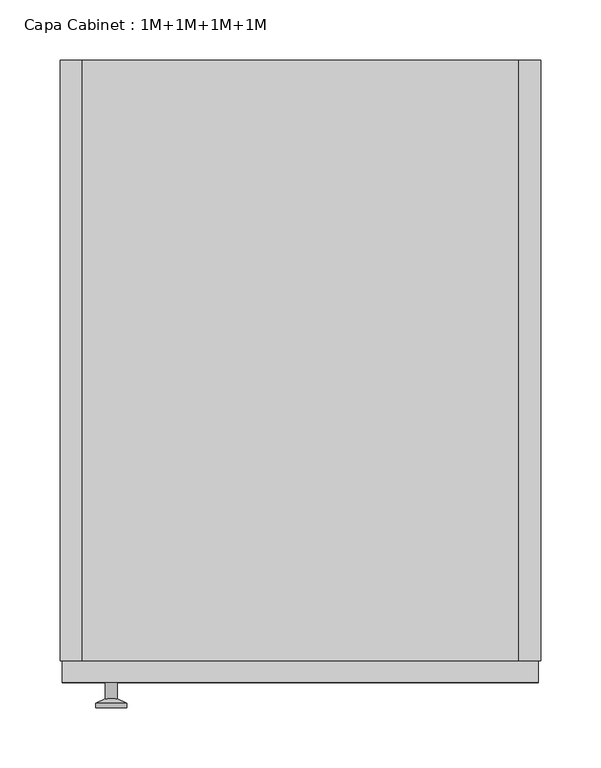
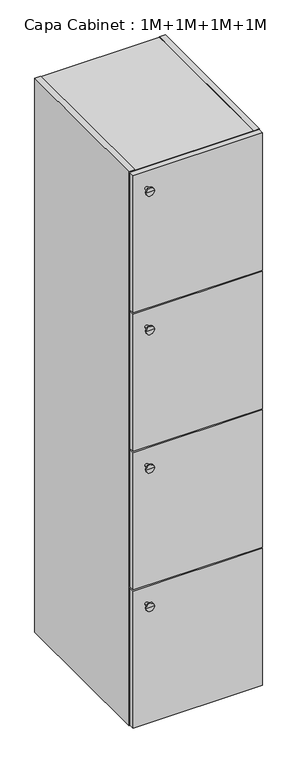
"""IFC4 building model written with IfcOpenShell, lengths in millimetres: furniture geometry, Capa Cabinet : 1M+1M+1M+1M."""

from ifc_helpers import new_model, si_unit, frame, origin, place, context, project, spatial, polyline, circle_curve, outline, extrude, faceted_brep, source, transform, mapped, element, save
from ifc_brep_helpers import plane_surface, cylinder_surface, revolved_surface, advanced_brep


def capa_cabinet_1m_1m_1m_1m_b69cb789(model_context):
    return source(origin(), model_context, "Body", "SolidModel", [
        extrude(outline(polyline([(182.0, 0.0), (-182.0, 0.0), (-182.0, 490.0), (182.0, 490.0), (182.0, 0.0)])), frame((0.0, 0.0, 1337.0), z_axis=(0.0, 0.0, 1.0), x_axis=(1.0, 0.0, 0.0)), (0.0, 0.0, 1.0), 14.0),
        extrude(outline(polyline([(182.0, 0.0), (-182.0, 0.0), (-182.0, 490.0), (182.0, 490.0), (182.0, 0.0)])), frame((0.0, 0.0, 889.0), z_axis=(0.0, 0.0, 1.0), x_axis=(1.0, 0.0, 0.0)), (0.0, 0.0, 1.0), 14.0),
        extrude(outline(polyline([(182.0, 0.0), (-182.0, 0.0), (-182.0, 490.0), (182.0, 490.0), (182.0, 0.0)])), frame((0.0, 0.0, 441.0), z_axis=(0.0, 0.0, 1.0), x_axis=(1.0, 0.0, 0.0)), (0.0, 0.0, 1.0), 14.0),
        faceted_brep([(-182.0, 500.0, 1792.0), (-182.0, 500.0, 1791.0), (182.0, 500.0, 1791.0), (182.0, 500.0, 1792.0), (200.0, 500.0, 1792.0), (200.0, 500.0, 0.0), (182.0, 500.0, 0.0), (182.0, 500.0, 1.0), (-182.0, 500.0, 1.0), (-182.0, 500.0, 0.0), (-200.0, 500.0, 0.0), (-200.0, 500.0, 1792.0), (182.0, 490.0, 19.0), (182.0, 490.0, 1773.0), (-182.0, 490.0, 1773.0), (-182.0, 490.0, 19.0), (-182.0, 0.0, 1792.0), (-200.0, 0.0, 1792.0), (-200.0, 0.0, 0.0), (-182.0, 0.0, 0.0), (-182.0, 0.0, 1.0), (182.0, 0.0, 1.0), (182.0, 0.0, 0.0), (200.0, 0.0, 0.0), (200.0, 0.0, 1792.0), (182.0, 0.0, 1792.0), (182.0, 0.0, 1791.0), (-182.0, 0.0, 1791.0), (182.0, 0.0, 1773.0), (182.0, 0.0, 19.0), (-182.0, 0.0, 19.0), (-182.0, 0.0, 1773.0)], [[[0, 1, 2, 3, 4, 5, 6, 7, 8, 9, 10, 11]], [[12, 13, 14, 15]], [[16, 17, 18, 19, 20, 21, 22, 23, 24, 25, 26, 27], [28, 29, 30, 31]], [[17, 16, 0, 11]], [[18, 17, 11, 10]], [[23, 22, 6, 5]], [[24, 23, 5, 4]], [[19, 18, 10, 9]], [[20, 19, 9, 8]], [[21, 20, 8, 7]], [[22, 21, 7, 6]], [[25, 24, 4, 3]], [[26, 25, 3, 2]], [[27, 26, 2, 1]], [[16, 27, 1, 0]], [[29, 28, 13, 12]], [[30, 29, 12, 15]], [[31, 30, 15, 14]], [[28, 31, 14, 13]]]),
        extrude(outline(polyline([(198.0, -18.0), (-198.0, -18.0), (-198.0, 0.0), (198.0, 0.0), (198.0, -18.0)])), frame((0.0, 0.0, 1346.0), z_axis=(0.0, 0.0, 1.0), x_axis=(1.0, 0.0, 0.0)), (0.0, 0.0, 1.0), 444.0),
        advanced_brep(
        [(-157.2922597, -18.0, 1736.0), (-152.2922597, -18.0, 1736.0), (-162.2922597, -18.0, 1736.0), (-170.2922597, -38.997134, 1736.0), (-144.2922597, -38.997134, 1736.0), (-157.2922597, -38.997134, 1736.0), (-170.2922597, -35.5419417, 1736.0), (-144.2922597, -35.5419417, 1736.0), (-162.2922597, -31.8114804, 1736.0), (-152.2922597, -31.8114804, 1736.0)],
        [
            (0, 1),
            (1, 2, circle_curve(frame((-157.2922597, -18.0, 1736.0), z_axis=(0.0, 1.0, 0.0), x_axis=(1.0, 0.0, 0.0)), 5.0)),
            (2, 0),
            (2, 1, circle_curve(frame((-157.2922597, -18.0, 1736.0), z_axis=(0.0, 1.0, 0.0), x_axis=(1.0, 0.0, 0.0)), 5.0)),
            (3, 4, circle_curve(frame((-157.2922597, -38.997134, 1736.0), z_axis=(0.0, -1.0, 0.0), x_axis=(1.0, 0.0, 0.0)), 13.0)),
            (4, 5),
            (5, 3),
            (4, 3, circle_curve(frame((-157.2922597, -38.997134, 1736.0), z_axis=(0.0, -1.0, 0.0), x_axis=(1.0, 0.0, 0.0)), 13.0)),
            (6, 7, circle_curve(frame((-157.2922597, -35.5419417, 1736.0), z_axis=(0.0, -1.0, 0.0), x_axis=(1.0, 0.0, 0.0)), 13.0)),
            (7, 4),
            (3, 6),
            (7, 6, circle_curve(frame((-157.2922597, -35.5419417, 1736.0), z_axis=(0.0, -1.0, 0.0), x_axis=(1.0, 0.0, 0.0)), 13.0)),
            (8, 9, circle_curve(frame((-157.2922597, -31.8114804, 1736.0), z_axis=(0.0, -1.0, 0.0), x_axis=(1.0, 0.0, 0.0)), 5.0)),
            (9, 7),
            (6, 8),
            (9, 8, circle_curve(frame((-157.2922597, -31.8114804, 1736.0), z_axis=(0.0, -1.0, 0.0), x_axis=(1.0, 0.0, 0.0)), 5.0)),
            (1, 9),
            (8, 2),
        ],
        [
            plane_surface(frame((-157.2922597, -18.0, 1736.0), z_axis=(0.0, 1.0, 0.0), x_axis=(1.0, 0.0, 0.0))),
            plane_surface(frame((-157.2922597, -38.997134, 1736.0), z_axis=(0.0, -1.0, 0.0), x_axis=(1.0, 0.0, 0.0))),
            cylinder_surface(frame((-157.2922597, -38.997134, 1736.0), z_axis=(0.0, 1.0, 0.0), x_axis=(1.0, 0.0, 0.0)), 13.0),
            revolved_surface(polyline([(-144.2922597, -35.5419417, 1736.0), (-152.2922597, -31.8114804, 1736.0)]), (-157.2922597, -38.997134, 1736.0), (0.0, 1.0, 0.0)),
            cylinder_surface(frame((-157.2922597, -38.997134, 1736.0), z_axis=(0.0, 1.0, 0.0), x_axis=(1.0, 0.0, 0.0)), 5.0),
        ],
        [
            (0, [[1, 2, 3]]),
            (0, [[-3, 4, -1]]),
            (1, [[5, 6, 7]]),
            (1, [[8, -7, -6]]),
            (2, [[9, 10, -5, 11]]),
            (2, [[12, -11, -8, -10]]),
            (3, [[13, 14, -9, 15]]),
            (3, [[16, -15, -12, -14]]),
            (4, [[-2, 17, -13, 18]]),
            (4, [[-4, -18, -16, -17]]),
        ],
    ),
        extrude(outline(polyline([(198.0, -18.0), (-198.0, -18.0), (-198.0, 0.0), (198.0, 0.0), (198.0, -18.0)])), frame((0.0, 0.0, 898.0), z_axis=(0.0, 0.0, 1.0), x_axis=(1.0, 0.0, 0.0)), (0.0, 0.0, 1.0), 444.0),
        advanced_brep(
        [(-157.2922597, -18.0, 1288.0), (-152.2922597, -18.0, 1288.0), (-162.2922597, -18.0, 1288.0), (-170.2922597, -38.997134, 1288.0), (-144.2922597, -38.997134, 1288.0), (-157.2922597, -38.997134, 1288.0), (-170.2922597, -35.5419417, 1288.0), (-144.2922597, -35.5419417, 1288.0), (-162.2922597, -31.8114804, 1288.0), (-152.2922597, -31.8114804, 1288.0)],
        [
            (0, 1),
            (1, 2, circle_curve(frame((-157.2922597, -18.0, 1288.0), z_axis=(0.0, 1.0, 0.0), x_axis=(1.0, 0.0, 0.0)), 5.0)),
            (2, 0),
            (2, 1, circle_curve(frame((-157.2922597, -18.0, 1288.0), z_axis=(0.0, 1.0, 0.0), x_axis=(1.0, 0.0, 0.0)), 5.0)),
            (3, 4, circle_curve(frame((-157.2922597, -38.997134, 1288.0), z_axis=(0.0, -1.0, 0.0), x_axis=(1.0, 0.0, 0.0)), 13.0)),
            (4, 5),
            (5, 3),
            (4, 3, circle_curve(frame((-157.2922597, -38.997134, 1288.0), z_axis=(0.0, -1.0, 0.0), x_axis=(1.0, 0.0, 0.0)), 13.0)),
            (6, 7, circle_curve(frame((-157.2922597, -35.5419417, 1288.0), z_axis=(0.0, -1.0, 0.0), x_axis=(1.0, 0.0, 0.0)), 13.0)),
            (7, 4),
            (3, 6),
            (7, 6, circle_curve(frame((-157.2922597, -35.5419417, 1288.0), z_axis=(0.0, -1.0, 0.0), x_axis=(1.0, 0.0, 0.0)), 13.0)),
            (8, 9, circle_curve(frame((-157.2922597, -31.8114804, 1288.0), z_axis=(0.0, -1.0, 0.0), x_axis=(1.0, 0.0, 0.0)), 5.0)),
            (9, 7),
            (6, 8),
            (9, 8, circle_curve(frame((-157.2922597, -31.8114804, 1288.0), z_axis=(0.0, -1.0, 0.0), x_axis=(1.0, 0.0, 0.0)), 5.0)),
            (1, 9),
            (8, 2),
        ],
        [
            plane_surface(frame((-157.2922597, -18.0, 1288.0), z_axis=(0.0, 1.0, 0.0), x_axis=(1.0, 0.0, 0.0))),
            plane_surface(frame((-157.2922597, -38.997134, 1288.0), z_axis=(0.0, -1.0, 0.0), x_axis=(1.0, 0.0, 0.0))),
            cylinder_surface(frame((-157.2922597, -38.997134, 1288.0), z_axis=(0.0, 1.0, 0.0), x_axis=(1.0, 0.0, 0.0)), 13.0),
            revolved_surface(polyline([(-144.2922597, -35.5419417, 1288.0), (-152.2922597, -31.8114804, 1288.0)]), (-157.2922597, -38.997134, 1288.0), (0.0, 1.0, 0.0)),
            cylinder_surface(frame((-157.2922597, -38.997134, 1288.0), z_axis=(0.0, 1.0, 0.0), x_axis=(1.0, 0.0, 0.0)), 5.0),
        ],
        [
            (0, [[1, 2, 3]]),
            (0, [[-3, 4, -1]]),
            (1, [[5, 6, 7]]),
            (1, [[8, -7, -6]]),
            (2, [[9, 10, -5, 11]]),
            (2, [[12, -11, -8, -10]]),
            (3, [[13, 14, -9, 15]]),
            (3, [[16, -15, -12, -14]]),
            (4, [[-2, 17, -13, 18]]),
            (4, [[-4, -18, -16, -17]]),
        ],
    ),
        extrude(outline(polyline([(198.0, -18.0), (-198.0, -18.0), (-198.0, 0.0), (198.0, 0.0), (198.0, -18.0)])), frame((0.0, 0.0, 450.0), z_axis=(0.0, 0.0, 1.0), x_axis=(1.0, 0.0, 0.0)), (0.0, 0.0, 1.0), 444.0),
        advanced_brep(
        [(-157.2922597, -18.0, 840.0), (-152.2922597, -18.0, 840.0), (-162.2922597, -18.0, 840.0), (-170.2922597, -38.997134, 840.0), (-144.2922597, -38.997134, 840.0), (-157.2922597, -38.997134, 840.0), (-170.2922597, -35.5419417, 840.0), (-144.2922597, -35.5419417, 840.0), (-162.2922597, -31.8114804, 840.0), (-152.2922597, -31.8114804, 840.0)],
        [
            (0, 1),
            (1, 2, circle_curve(frame((-157.2922597, -18.0, 840.0), z_axis=(0.0, 1.0, 0.0), x_axis=(1.0, 0.0, 0.0)), 5.0)),
            (2, 0),
            (2, 1, circle_curve(frame((-157.2922597, -18.0, 840.0), z_axis=(0.0, 1.0, 0.0), x_axis=(1.0, 0.0, 0.0)), 5.0)),
            (3, 4, circle_curve(frame((-157.2922597, -38.997134, 840.0), z_axis=(0.0, -1.0, 0.0), x_axis=(1.0, 0.0, 0.0)), 13.0)),
            (4, 5),
            (5, 3),
            (4, 3, circle_curve(frame((-157.2922597, -38.997134, 840.0), z_axis=(0.0, -1.0, 0.0), x_axis=(1.0, 0.0, 0.0)), 13.0)),
            (6, 7, circle_curve(frame((-157.2922597, -35.5419417, 840.0), z_axis=(0.0, -1.0, 0.0), x_axis=(1.0, 0.0, 0.0)), 13.0)),
            (7, 4),
            (3, 6),
            (7, 6, circle_curve(frame((-157.2922597, -35.5419417, 840.0), z_axis=(0.0, -1.0, 0.0), x_axis=(1.0, 0.0, 0.0)), 13.0)),
            (8, 9, circle_curve(frame((-157.2922597, -31.8114804, 840.0), z_axis=(0.0, -1.0, 0.0), x_axis=(1.0, 0.0, 0.0)), 5.0)),
            (9, 7),
            (6, 8),
            (9, 8, circle_curve(frame((-157.2922597, -31.8114804, 840.0), z_axis=(0.0, -1.0, 0.0), x_axis=(1.0, 0.0, 0.0)), 5.0)),
            (1, 9),
            (8, 2),
        ],
        [
            plane_surface(frame((-157.2922597, -18.0, 840.0), z_axis=(0.0, 1.0, 0.0), x_axis=(1.0, 0.0, 0.0))),
            plane_surface(frame((-157.2922597, -38.997134, 840.0), z_axis=(0.0, -1.0, 0.0), x_axis=(1.0, 0.0, 0.0))),
            cylinder_surface(frame((-157.2922597, -38.997134, 840.0), z_axis=(0.0, 1.0, 0.0), x_axis=(1.0, 0.0, 0.0)), 13.0),
            revolved_surface(polyline([(-144.2922597, -35.5419417, 840.0), (-152.2922597, -31.8114804, 840.0)]), (-157.2922597, -38.997134, 840.0), (0.0, 1.0, 0.0)),
            cylinder_surface(frame((-157.2922597, -38.997134, 840.0), z_axis=(0.0, 1.0, 0.0), x_axis=(1.0, 0.0, 0.0)), 5.0),
        ],
        [
            (0, [[1, 2, 3]]),
            (0, [[-3, 4, -1]]),
            (1, [[5, 6, 7]]),
            (1, [[8, -7, -6]]),
            (2, [[9, 10, -5, 11]]),
            (2, [[12, -11, -8, -10]]),
            (3, [[13, 14, -9, 15]]),
            (3, [[16, -15, -12, -14]]),
            (4, [[-2, 17, -13, 18]]),
            (4, [[-4, -18, -16, -17]]),
        ],
    ),
        extrude(outline(polyline([(198.0, -18.0), (-198.0, -18.0), (-198.0, 0.0), (198.0, 0.0), (198.0, -18.0)])), frame((0.0, 0.0, 2.0), z_axis=(0.0, 0.0, 1.0), x_axis=(1.0, 0.0, 0.0)), (0.0, 0.0, 1.0), 444.0),
        advanced_brep(
        [(-157.2922597, -18.0, 392.0), (-152.2922597, -18.0, 392.0), (-162.2922597, -18.0, 392.0), (-170.2922597, -38.997134, 392.0), (-144.2922597, -38.997134, 392.0), (-157.2922597, -38.997134, 392.0), (-170.2922597, -35.5419417, 392.0), (-144.2922597, -35.5419417, 392.0), (-162.2922597, -31.8114804, 392.0), (-152.2922597, -31.8114804, 392.0)],
        [
            (0, 1),
            (1, 2, circle_curve(frame((-157.2922597, -18.0, 392.0), z_axis=(0.0, 1.0, 0.0), x_axis=(1.0, 0.0, 0.0)), 5.0)),
            (2, 0),
            (2, 1, circle_curve(frame((-157.2922597, -18.0, 392.0), z_axis=(0.0, 1.0, 0.0), x_axis=(1.0, 0.0, 0.0)), 5.0)),
            (3, 4, circle_curve(frame((-157.2922597, -38.997134, 392.0), z_axis=(0.0, -1.0, 0.0), x_axis=(1.0, 0.0, 0.0)), 13.0)),
            (4, 5),
            (5, 3),
            (4, 3, circle_curve(frame((-157.2922597, -38.997134, 392.0), z_axis=(0.0, -1.0, 0.0), x_axis=(1.0, 0.0, 0.0)), 13.0)),
            (6, 7, circle_curve(frame((-157.2922597, -35.5419417, 392.0), z_axis=(0.0, -1.0, 0.0), x_axis=(1.0, 0.0, 0.0)), 13.0)),
            (7, 4),
            (3, 6),
            (7, 6, circle_curve(frame((-157.2922597, -35.5419417, 392.0), z_axis=(0.0, -1.0, 0.0), x_axis=(1.0, 0.0, 0.0)), 13.0)),
            (8, 9, circle_curve(frame((-157.2922597, -31.8114804, 392.0), z_axis=(0.0, -1.0, 0.0), x_axis=(1.0, 0.0, 0.0)), 5.0)),
            (9, 7),
            (6, 8),
            (9, 8, circle_curve(frame((-157.2922597, -31.8114804, 392.0), z_axis=(0.0, -1.0, 0.0), x_axis=(1.0, 0.0, 0.0)), 5.0)),
            (1, 9),
            (8, 2),
        ],
        [
            plane_surface(frame((-157.2922597, -18.0, 392.0), z_axis=(0.0, 1.0, 0.0), x_axis=(1.0, 0.0, 0.0))),
            plane_surface(frame((-157.2922597, -38.997134, 392.0), z_axis=(0.0, -1.0, 0.0), x_axis=(1.0, 0.0, 0.0))),
            cylinder_surface(frame((-157.2922597, -38.997134, 392.0), z_axis=(0.0, 1.0, 0.0), x_axis=(1.0, 0.0, 0.0)), 13.0),
            revolved_surface(polyline([(-144.2922597, -35.5419417, 392.0), (-152.2922597, -31.8114804, 392.0)]), (-157.2922597, -38.997134, 392.0), (0.0, 1.0, 0.0)),
            cylinder_surface(frame((-157.2922597, -38.997134, 392.0), z_axis=(0.0, 1.0, 0.0), x_axis=(1.0, 0.0, 0.0)), 5.0),
        ],
        [
            (0, [[1, 2, 3]]),
            (0, [[-3, 4, -1]]),
            (1, [[5, 6, 7]]),
            (1, [[8, -7, -6]]),
            (2, [[9, 10, -5, 11]]),
            (2, [[12, -11, -8, -10]]),
            (3, [[13, 14, -9, 15]]),
            (3, [[16, -15, -12, -14]]),
            (4, [[-2, 17, -13, 18]]),
            (4, [[-4, -18, -16, -17]]),
        ],
    ),
    ])


if __name__ == "__main__":
    model = new_model("IFC4")
    model_context = context("Model", 3, world=origin())
    ifc_project = project(units=[si_unit("LENGTHUNIT", "METRE", prefix="MILLI")], contexts=[model_context])
    site = spatial("IfcSite", under=ifc_project)
    building = spatial("IfcBuilding", under=site)
    placement = place(None, origin())
    capa_cabinet_1m_1m_1m_1m_shape = capa_cabinet_1m_1m_1m_1m_b69cb789(model_context)
    element("IfcFurniture", 1, ObjectType="Capa Cabinet : 1M+1M+1M+1M", at=placement, inside=building, context=model_context, shape_type="MappedRepresentation", body=[
        mapped(capa_cabinet_1m_1m_1m_1m_shape, transform((0.0, 0.0, 0.0), x_axis=(1.0, 0.0, 0.0), y_axis=(0.0, 1.0, 0.0), z_axis=(0.0, 0.0, 1.0))),
    ])
    save(model, "model.ifc")
